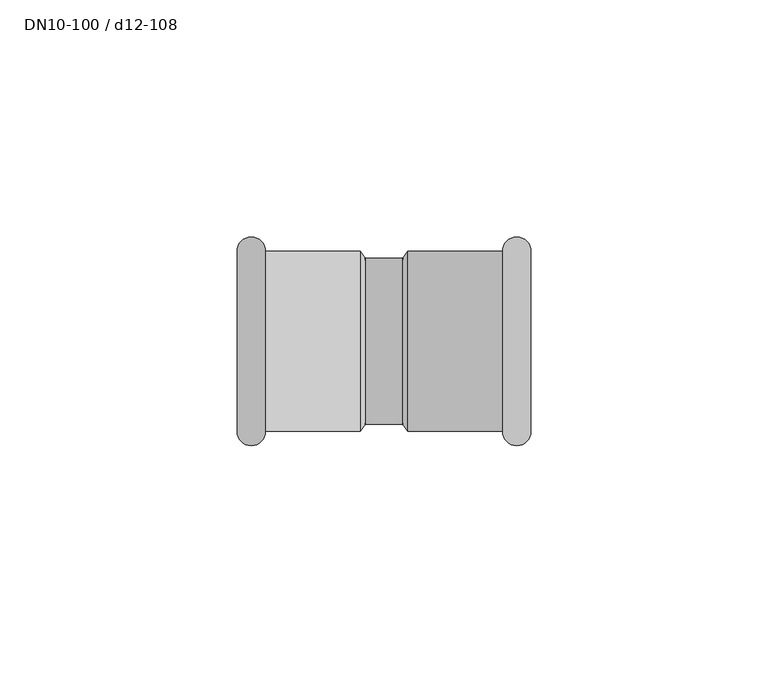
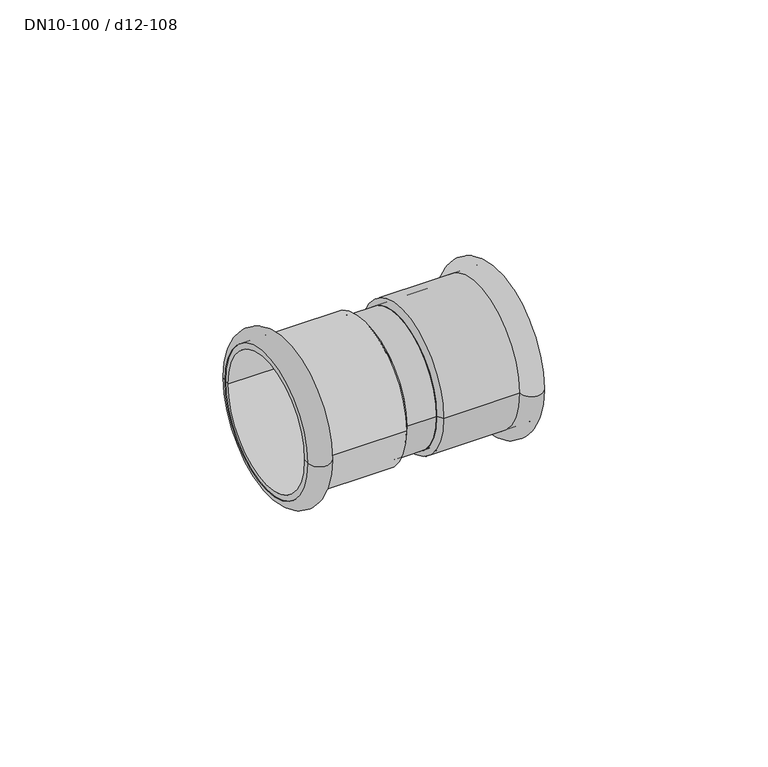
"""IFC4 building model written with IfcOpenShell, lengths in millimetres: pipe fitting geometry, NLRS_50_PIF_UN_Mapress koper sok_geb : DN10-100 / d12-108."""

import ifcopenshell
import ifcopenshell.guid

model = None  # the IFC model being written
_history = None  # IfcOwnerHistory: only IFC2X3 demands one
_inside = {}  # id of a spatial element -> (the spatial element, [elements in it])
_under = {}  # id of a project, library or spatial element -> (it, [spatial elements below it])
_declared = {}  # id of a project -> (the project, [libraries it declares])
_typed = {}  # id of a type object -> (the type object, [elements of that type])
_made_of = {}  # id of a material, layer set ... -> (it, [elements and type objects made of it])


def new_model(schema):
    """Start an empty IFC model of exactly this schema.

    Asked for "IFC4X3", IfcOpenShell would pick the latest addendum, in which some entities
    have other attributes; the version numbers below select the first issue.
    IFC2X3 requires an IfcOwnerHistory on every rooted entity: one is made here for all.
    """
    global model, _history
    if schema == "IFC4X3":
        model = ifcopenshell.file(schema_version=(4, 3, 0, 0))
    else:
        model = ifcopenshell.file(schema=schema)
    _inside.clear()
    _under.clear()
    _declared.clear()
    _typed.clear()
    _made_of.clear()
    _history = None
    if model.schema == "IFC2X3":
        org = make("IfcOrganization", Name="unknown")
        user = make(
            "IfcPersonAndOrganization",
            ThePerson=make("IfcPerson", FamilyName="unknown"),
            TheOrganization=org,
        )
        app = make(
            "IfcApplication",
            ApplicationDeveloper=org,
            Version="unknown",
            ApplicationFullName="unknown",
            ApplicationIdentifier="unknown",
        )
        _history = make(
            "IfcOwnerHistory",
            OwningUser=user,
            OwningApplication=app,
            ChangeAction="ADDED",
            CreationDate=0,
        )
    return model


def make(cls, **values):
    """One entity of the class cls with the attributes given. An attribute that is None is left unset."""
    return model.create_entity(
        cls, **{name: value for name, value in values.items() if value is not None}
    )


def rooted(cls, **values):
    """An entity with a GlobalId (a new one), such as an element, a storey or a relation."""
    return make(cls, GlobalId=ifcopenshell.guid.new(), OwnerHistory=_history, **values)


def si_unit(unit_type, name, prefix=None):
    """IfcSIUnit, for example si_unit("LENGTHUNIT", "METRE", prefix="MILLI")."""
    return make("IfcSIUnit", UnitType=unit_type, Prefix=prefix, Name=name)


def assignment(units):
    """IfcUnitAssignment: the units of a project."""
    return None if units is None else make("IfcUnitAssignment", Units=units)


def point(xyz):
    """IfcCartesianPoint."""
    return None if xyz is None else make("IfcCartesianPoint", Coordinates=xyz)


def direction(xyz):
    """IfcDirection."""
    return None if xyz is None else make("IfcDirection", DirectionRatios=xyz)


def frame(location, z_axis=None, x_axis=None):
    """IfcAxis2Placement3D, a coordinate frame: its origin and axes. An axis left out is left unset."""
    return make(
        "IfcAxis2Placement3D",
        Location=point(location),
        Axis=direction(z_axis),
        RefDirection=direction(x_axis),
    )


def frame_2d(location, x_axis=None):
    """IfcAxis2Placement2D, a coordinate frame in the plane: its origin and x axis."""
    return make(
        "IfcAxis2Placement2D", Location=point(location), RefDirection=direction(x_axis)
    )


def origin():
    """The frame at (0, 0, 0) with its axes left unset."""
    return frame((0.0, 0.0, 0.0))


def origin_2d():
    """The frame at (0, 0) in the plane with its x axis left unset."""
    return frame_2d((0.0, 0.0))


def place(relative_to, where):
    """IfcLocalPlacement: puts the frame where relative to a parent placement (None: the world)."""
    return make(
        "IfcLocalPlacement", PlacementRelTo=relative_to, RelativePlacement=where
    )


def context(
    kind, dimensions, precision=None, world=None, true_north=None, identifier=None
):
    """IfcGeometricRepresentationContext, for example the 3D "Model" context."""
    return make(
        "IfcGeometricRepresentationContext",
        ContextIdentifier=identifier,
        ContextType=kind,
        CoordinateSpaceDimension=dimensions,
        Precision=precision,
        WorldCoordinateSystem=world,
        TrueNorth=true_north,
    )


def project(units=None, contexts=None):
    """IfcProject with its units and contexts."""
    return rooted(
        "IfcProject",
        Name="project",
        RepresentationContexts=contexts,
        UnitsInContext=assignment(units),
    )


def spatial(cls, under=None, at=None, **own):
    """A site, building, storey or space (cls), placed at a placement, below another one or the project."""
    s = rooted(cls, ObjectPlacement=at, **own)
    if under is not None:
        _under.setdefault(under.id(), (under, []))[1].append(s)
    return s


def polyline(points):
    """IfcPolyline through the points."""
    return make("IfcPolyline", Points=[point(p) for p in points])


def circle_curve(where, radius):
    """IfcCircle in the frame where."""
    return make("IfcCircle", Position=where, Radius=radius)


def ellipse_curve(where, semi_axis1, semi_axis2):
    """IfcEllipse in the frame where."""
    return make(
        "IfcEllipse", Position=where, SemiAxis1=semi_axis1, SemiAxis2=semi_axis2
    )


def trimmed(basis, trim1, trim2, sense, master):
    """IfcTrimmedCurve: the piece of a basis curve between two trims."""
    return make(
        "IfcTrimmedCurve",
        BasisCurve=basis,
        Trim1=trim1,
        Trim2=trim2,
        SenseAgreement=sense,
        MasterRepresentation=master,
    )


def segment(curve, same_sense, transition):
    """IfcCompositeCurveSegment."""
    return make(
        "IfcCompositeCurveSegment",
        Transition=transition,
        SameSense=same_sense,
        ParentCurve=curve,
    )


def composite_curve(segments, self_intersect=None):
    """IfcCompositeCurve: segments joined end to end."""
    return make("IfcCompositeCurve", Segments=segments, SelfIntersect=self_intersect)


def outline(outer, holes=None, kind="AREA"):
    """IfcArbitraryClosedProfileDef: a profile drawn as a closed curve; with holes, ...WithVoids."""
    if holes is None:
        return make("IfcArbitraryClosedProfileDef", ProfileType=kind, OuterCurve=outer)
    return make(
        "IfcArbitraryProfileDefWithVoids",
        ProfileType=kind,
        OuterCurve=outer,
        InnerCurves=holes,
    )


def extrude(swept, where, along, depth):
    """IfcExtrudedAreaSolid: the profile swept, set in the frame where, extruded along a direction by depth."""
    return make(
        "IfcExtrudedAreaSolid",
        SweptArea=swept,
        Position=where,
        ExtrudedDirection=direction(along),
        Depth=depth,
    )


def shape(context_of_items, identifier, shape_type, items):
    """IfcShapeRepresentation: the items that make up one representation, for example the "Body"."""
    return make(
        "IfcShapeRepresentation",
        ContextOfItems=context_of_items,
        RepresentationIdentifier=identifier,
        RepresentationType=shape_type,
        Items=items,
    )


def source(mapping_origin, context_of_items, identifier, shape_type, items):
    """IfcRepresentationMap: a shape defined once, which mapped items show again and again."""
    return make(
        "IfcRepresentationMap",
        MappingOrigin=mapping_origin,
        MappedRepresentation=shape(context_of_items, identifier, shape_type, items),
    )


def transform(
    local_origin,
    x_axis=None,
    y_axis=None,
    z_axis=None,
    scale=None,
    scale2=None,
    scale3=None,
    uniform=True,
):
    """IfcCartesianTransformationOperator3D, or its non-uniform kind. x_axis, y_axis, z_axis: its Axis1, 2, 3."""
    if uniform:
        return make(
            "IfcCartesianTransformationOperator3D",
            Axis1=direction(x_axis),
            Axis2=direction(y_axis),
            LocalOrigin=point(local_origin),
            Scale=scale,
            Axis3=direction(z_axis),
        )
    return make(
        "IfcCartesianTransformationOperator3DnonUniform",
        Axis1=direction(x_axis),
        Axis2=direction(y_axis),
        LocalOrigin=point(local_origin),
        Scale=scale,
        Axis3=direction(z_axis),
        Scale2=scale2,
        Scale3=scale3,
    )


def mapped(mapping_source, mapping_target):
    """IfcMappedItem: shows the shape of a source again, moved by a transform."""
    return make(
        "IfcMappedItem", MappingSource=mapping_source, MappingTarget=mapping_target
    )


def made_of(thing, what):
    """Note that an element or type object is made of a material, layer set ...; save() writes the relation."""
    if what is not None:
        _made_of.setdefault(what.id(), (what, []))[1].append(thing)
    return thing


def element(
    cls,
    number,
    at=None,
    inside=None,
    cuts=None,
    type_object=None,
    material=None,
    context=None,
    identifier="Body",
    shape_type=None,
    held_by="IfcProductDefinitionShape",
    body=None,
    shapes=None,
    **own,
):
    """One element of the class cls, such as IfcWall. Its Tag is "e" and its number.

    at: its placement. inside: the storey or other place that contains it. cuts: it is an
    opening in that element (IfcRelVoidsElement). A single representation is given by context,
    identifier, shape_type and body (its items); several are given by shapes. held_by: the class
    of the entity that holds the representations. save() writes the other relations.
    """
    e = rooted(cls, Tag="e%d" % number, ObjectPlacement=at, **own)
    if body is not None:
        shapes = [shape(context, identifier, shape_type, body)]
    if shapes is not None:
        e.Representation = make(held_by, Representations=shapes)
    if inside is not None:
        _inside.setdefault(inside.id(), (inside, []))[1].append(e)
    if cuts is not None:
        rooted(
            "IfcRelVoidsElement", RelatingBuildingElement=cuts, RelatedOpeningElement=e
        )
    if type_object is not None:
        _typed.setdefault(type_object.id(), (type_object, []))[1].append(e)
    return made_of(e, material)


def aggregate(whole, parts):
    """IfcRelAggregates: a whole, such as a stair, and the parts it consists of."""
    return rooted("IfcRelAggregates", RelatingObject=whole, RelatedObjects=parts)


def save(model, path):
    """Write the relations noted so far, then the file.

    IfcRelAggregates (storeys below a building ...), IfcRelContainedInSpatialStructure (elements
    in a storey), IfcRelDefinesByType, IfcRelAssociatesMaterial and IfcRelDeclares: one each for
    every whole, place, type object, material and project.
    """
    for whole, parts in _under.values():
        aggregate(whole, parts)
    for where, things in _inside.values():
        rooted(
            "IfcRelContainedInSpatialStructure",
            RelatedElements=things,
            RelatingStructure=where,
        )
    for kind, things in _typed.values():
        rooted("IfcRelDefinesByType", RelatedObjects=things, RelatingType=kind)
    for what, things in _made_of.values():
        rooted("IfcRelAssociatesMaterial", RelatedObjects=things, RelatingMaterial=what)
    for by, libraries in _declared.values():
        rooted("IfcRelDeclares", RelatingContext=by, RelatedDefinitions=libraries)
    model.write(path)


def plane_surface(at):
    """IfcPlane: the flat surface through the origin of the frame at, square to its z axis."""
    return make("IfcPlane", Position=at)


def cylinder_surface(at, radius):
    """IfcCylindricalSurface: all points at the distance radius from the z axis of the frame at."""
    return make("IfcCylindricalSurface", Position=at, Radius=radius)


def revolved_surface(curve, axis_point, axis_direction):
    """IfcSurfaceOfRevolution: the curve turned about the line through axis_point along axis_direction."""
    return make(
        "IfcSurfaceOfRevolution",
        SweptCurve=make("IfcArbitraryOpenProfileDef", ProfileType="CURVE", Curve=curve),
        AxisPosition=make("IfcAxis1Placement", Location=point(axis_point), Axis=direction(axis_direction)),
    )


def advanced_brep(points, edges, surfaces, faces):
    """IfcAdvancedBrep: a solid bounded by faces that lie on surfaces and meet in shared edges.

    An edge is (start, end): straight between two places in points (the first is 0);
    or (start, end, curve); or (start, end, curve, False) where it runs against its curve.
    A face is (place in surfaces, loops), or (place, loops, False) where it looks against
    its surface's normal. A loop lists edges by number (the first is 1), with a minus sign
    where the edge is run from its end to its start. The first loop is the outer one.
    """
    corners = [point(p) for p in points]
    vertices = [make("IfcVertexPoint", VertexGeometry=c) for c in corners]
    made = []
    for start, end, *more in edges:
        made.append(
            make(
                "IfcEdgeCurve",
                EdgeStart=vertices[start],
                EdgeEnd=vertices[end],
                EdgeGeometry=more[0] if more else make("IfcPolyline", Points=[corners[start], corners[end]]),
                SameSense=more[1] if len(more) > 1 else True,
            )
        )
    hull = []
    for where, loops, *sense in faces:
        bounds = []
        for j, loop in enumerate(loops):
            ring = [make("IfcOrientedEdge", EdgeElement=made[abs(k) - 1], Orientation=k > 0) for k in loop]
            bounds.append(
                make(
                    "IfcFaceOuterBound" if j == 0 else "IfcFaceBound",
                    Bound=make("IfcEdgeLoop", EdgeList=ring),
                    Orientation=True,
                )
            )
        hull.append(make("IfcAdvancedFace", Bounds=bounds, FaceSurface=surfaces[where], SameSense=sense[0] if sense else True))
    return make("IfcAdvancedBrep", Outer=make("IfcClosedShell", CfsFaces=hull))


def dn10_100_d12_108_8bdaee71(model_context):
    return source(origin(), model_context, "Body", "SolidModel", [
        advanced_brep(
        [(-31.0, 19.0, 0.0), (-31.0, -19.0, 0.0), (-24.9987073, -19.0, 0.0), (-24.9987073, 19.0, 0.0)],
        [
            (0, 1, circle_curve(frame((-31.0, 0.0, 0.0), z_axis=(-1.0, 0.0, 0.0), x_axis=(0.0, -1.0, 0.0)), 19.0)),
            (1, 2),
            (2, 3, circle_curve(frame((-24.9987073, 0.0, 0.0), z_axis=(1.0, 0.0, 0.0), x_axis=(0.0, -1.0, 0.0)), 19.0)),
            (3, 0),
            (1, 0, circle_curve(frame((-31.0, 0.0, 0.0), z_axis=(-1.0, 0.0, 0.0), x_axis=(0.0, -1.0, 0.0)), 19.0)),
            (3, 2, circle_curve(frame((-24.9987073, 0.0, 0.0), z_axis=(1.0, 0.0, 0.0), x_axis=(0.0, -1.0, 0.0)), 19.0)),
            (2, 1, circle_curve(frame((-27.9993536, -19.0, 0.0), z_axis=(0.0, 0.0, -1.0), x_axis=(-1.0, 0.0, 0.0)), 3.0006464)),
            (0, 3, circle_curve(frame((-27.9993536, 19.0, 0.0), z_axis=(0.0, 0.0, -1.0), x_axis=(-1.0, 0.0, 0.0)), 3.0006464)),
        ],
        [
            revolved_surface(polyline([(-24.9987073, -19.0, 0.0), (-31.0, -19.0, 0.0)]), (-5.0, 0.0, 0.0), (1.0, 0.0, 0.0)),
            revolved_surface(trimmed(ellipse_curve(frame((-27.9993536, -19.0, 0.0), z_axis=(0.0, 0.0, 1.0), x_axis=(-1.0, 0.0, 0.0)), 3.0006464, 3.0006464), [point((-31.0, -19.0, 0.0))], [point((-24.9987073, -19.0, 0.0))], True, "CARTESIAN"), (-5.0, 0.0, 0.0), (1.0, 0.0, 0.0)),
        ],
        [
            (0, [[1, 2, 3, 4]]),
            (0, [[5, -4, 6, -2]]),
            (1, [[-3, 7, -1, 8]]),
            (1, [[-6, -8, -5, -7]]),
        ],
    ),
        advanced_brep(
        [(-31.0, 17.5, 0.0), (-31.0, -17.5, 0.0), (-4.0, -17.5, 0.0), (-4.0, 17.5, 0.0), (-31.0, 19.0, 0.0), (-31.0, -19.0, 0.0), (-5.0, 19.0, 0.0), (-5.0, -19.0, 0.0)],
        [
            (0, 1, circle_curve(frame((-31.0, 0.0, 0.0), z_axis=(-1.0, 0.0, 0.0), x_axis=(0.0, -1.0, 0.0)), 17.5)),
            (1, 2),
            (2, 3, circle_curve(frame((-4.0, 0.0, 0.0), z_axis=(1.0, 0.0, 0.0), x_axis=(0.0, -1.0, 0.0)), 17.5)),
            (3, 0),
            (1, 0, circle_curve(frame((-31.0, 0.0, 0.0), z_axis=(-1.0, 0.0, 0.0), x_axis=(0.0, -1.0, 0.0)), 17.5)),
            (3, 2, circle_curve(frame((-4.0, 0.0, 0.0), z_axis=(1.0, 0.0, 0.0), x_axis=(0.0, -1.0, 0.0)), 17.5)),
            (4, 5, circle_curve(frame((-31.0, 0.0, 0.0), z_axis=(-1.0, 0.0, 0.0), x_axis=(0.0, -1.0, 0.0)), 19.0)),
            (5, 1),
            (0, 4),
            (5, 4, circle_curve(frame((-31.0, 0.0, 0.0), z_axis=(-1.0, 0.0, 0.0), x_axis=(0.0, -1.0, 0.0)), 19.0)),
            (6, 7, circle_curve(frame((-5.0, 0.0, 0.0), z_axis=(-1.0, 0.0, 0.0), x_axis=(0.0, -1.0, 0.0)), 19.0)),
            (7, 5),
            (4, 6),
            (7, 6, circle_curve(frame((-5.0, 0.0, 0.0), z_axis=(-1.0, 0.0, 0.0), x_axis=(0.0, -1.0, 0.0)), 19.0)),
            (2, 7),
            (6, 3),
        ],
        [
            revolved_surface(polyline([(-4.0, -17.5, 0.0), (-31.0, -17.5, 0.0)]), (-5.0, 0.0, 0.0), (1.0, 0.0, 0.0)),
            plane_surface(frame((-31.0, 0.0, 0.0), z_axis=(-1.0, 0.0, 0.0), x_axis=(0.0, -1.0, 0.0))),
            cylinder_surface(frame((-5.0, 0.0, 0.0), z_axis=(1.0, 0.0, 0.0), x_axis=(0.0, -1.0, 0.0)), 19.0),
            revolved_surface(polyline([(-5.0, -19.0, 0.0), (-4.0, -17.5, 0.0)]), (-5.0, 0.0, 0.0), (1.0, 0.0, 0.0)),
        ],
        [
            (0, [[1, 2, 3, 4]]),
            (0, [[5, -4, 6, -2]]),
            (1, [[7, 8, -1, 9]]),
            (1, [[10, -9, -5, -8]]),
            (2, [[11, 12, -7, 13]]),
            (2, [[14, -13, -10, -12]]),
            (3, [[-3, 15, -11, 16]]),
            (3, [[-6, -16, -14, -15]]),
        ],
    ),
        advanced_brep(
        [(31.0, -19.0, 0.0), (31.0, 19.0, 0.0), (24.9987073, 19.0, 0.0), (24.9987073, -19.0, 0.0)],
        [
            (0, 1, circle_curve(frame((31.0, 0.0, 0.0), z_axis=(1.0, 0.0, 0.0), x_axis=(0.0, 1.0, 0.0)), 19.0)),
            (1, 2),
            (2, 3, circle_curve(frame((24.9987073, 0.0, 0.0), z_axis=(-1.0, 0.0, 0.0), x_axis=(0.0, 1.0, 0.0)), 19.0)),
            (3, 0),
            (1, 0, circle_curve(frame((31.0, 0.0, 0.0), z_axis=(1.0, 0.0, 0.0), x_axis=(0.0, 1.0, 0.0)), 19.0)),
            (3, 2, circle_curve(frame((24.9987073, 0.0, 0.0), z_axis=(-1.0, 0.0, 0.0), x_axis=(0.0, 1.0, 0.0)), 19.0)),
            (2, 1, circle_curve(frame((27.9993536, 19.0, 0.0), z_axis=(0.0, 0.0, -1.0), x_axis=(1.0, 0.0, 0.0)), 3.0006464)),
            (0, 3, circle_curve(frame((27.9993536, -19.0, 0.0), z_axis=(0.0, 0.0, -1.0), x_axis=(1.0, 0.0, 0.0)), 3.0006464)),
        ],
        [
            revolved_surface(polyline([(24.9987073, 19.0, 0.0), (31.0, 19.0, 0.0)]), (5.0, 0.0, 0.0), (-1.0, 0.0, 0.0)),
            revolved_surface(trimmed(ellipse_curve(frame((27.9993536, 19.0, 0.0), z_axis=(0.0, 0.0, 1.0), x_axis=(1.0, 0.0, 0.0)), 3.0006464, 3.0006464), [point((31.0, 19.0, 0.0))], [point((24.9987073, 19.0, 0.0))], True, "CARTESIAN"), (5.0, 0.0, 0.0), (-1.0, 0.0, 0.0)),
        ],
        [
            (0, [[1, 2, 3, 4]]),
            (0, [[5, -4, 6, -2]]),
            (1, [[-3, 7, -1, 8]]),
            (1, [[-6, -8, -5, -7]]),
        ],
    ),
        advanced_brep(
        [(31.0, -17.5, 0.0), (31.0, 17.5, 0.0), (4.0, 17.5, 0.0), (4.0, -17.5, 0.0), (31.0, -19.0, 0.0), (31.0, 19.0, 0.0), (5.0, -19.0, 0.0), (5.0, 19.0, 0.0)],
        [
            (0, 1, circle_curve(frame((31.0, 0.0, 0.0), z_axis=(1.0, 0.0, 0.0), x_axis=(0.0, 1.0, 0.0)), 17.5)),
            (1, 2),
            (2, 3, circle_curve(frame((4.0, 0.0, 0.0), z_axis=(-1.0, 0.0, 0.0), x_axis=(0.0, 1.0, 0.0)), 17.5)),
            (3, 0),
            (1, 0, circle_curve(frame((31.0, 0.0, 0.0), z_axis=(1.0, 0.0, 0.0), x_axis=(0.0, 1.0, 0.0)), 17.5)),
            (3, 2, circle_curve(frame((4.0, 0.0, 0.0), z_axis=(-1.0, 0.0, 0.0), x_axis=(0.0, 1.0, 0.0)), 17.5)),
            (4, 5, circle_curve(frame((31.0, 0.0, 0.0), z_axis=(1.0, 0.0, 0.0), x_axis=(0.0, 1.0, 0.0)), 19.0)),
            (5, 1),
            (0, 4),
            (5, 4, circle_curve(frame((31.0, 0.0, 0.0), z_axis=(1.0, 0.0, 0.0), x_axis=(0.0, 1.0, 0.0)), 19.0)),
            (6, 7, circle_curve(frame((5.0, 0.0, 0.0), z_axis=(1.0, 0.0, 0.0), x_axis=(0.0, 1.0, 0.0)), 19.0)),
            (7, 5),
            (4, 6),
            (7, 6, circle_curve(frame((5.0, 0.0, 0.0), z_axis=(1.0, 0.0, 0.0), x_axis=(0.0, 1.0, 0.0)), 19.0)),
            (2, 7),
            (6, 3),
        ],
        [
            revolved_surface(polyline([(4.0, 17.5, 0.0), (31.0, 17.5, 0.0)]), (5.0, 0.0, 0.0), (-1.0, 0.0, 0.0)),
            plane_surface(frame((31.0, 0.0, 0.0), z_axis=(1.0, 0.0, 0.0), x_axis=(0.0, 1.0, 0.0))),
            cylinder_surface(frame((5.0, 0.0, 0.0), z_axis=(-1.0, 0.0, 0.0), x_axis=(0.0, 1.0, 0.0)), 19.0),
            revolved_surface(polyline([(5.0, 19.0, 0.0), (4.0, 17.5, 0.0)]), (5.0, 0.0, 0.0), (-1.0, 0.0, 0.0)),
        ],
        [
            (0, [[1, 2, 3, 4]]),
            (0, [[5, -4, 6, -2]]),
            (1, [[7, 8, -1, 9]]),
            (1, [[10, -9, -5, -8]]),
            (2, [[11, 12, -7, 13]]),
            (2, [[14, -13, -10, -12]]),
            (3, [[-3, 15, -11, 16]]),
            (3, [[-6, -16, -14, -15]]),
        ],
    ),
        advanced_brep(
        [(-5.0, -17.5, 0.0), (-5.0, 17.5, 0.0), (-4.0, 17.5, 0.0), (-4.0, -17.5, 0.0), (-5.0, 0.0, 0.0), (-4.0, 0.0, 0.0)],
        [
            (0, 1, circle_curve(frame((-5.0, 0.0, 0.0), z_axis=(1.0, 0.0, 0.0), x_axis=(0.0, 1.0, 0.0)), 17.5)),
            (1, 2),
            (2, 3, circle_curve(frame((-4.0, 0.0, 0.0), z_axis=(-1.0, 0.0, 0.0), x_axis=(0.0, 1.0, 0.0)), 17.5)),
            (3, 0),
            (1, 0, circle_curve(frame((-5.0, 0.0, 0.0), z_axis=(1.0, 0.0, 0.0), x_axis=(0.0, 1.0, 0.0)), 17.5)),
            (3, 2, circle_curve(frame((-4.0, 0.0, 0.0), z_axis=(-1.0, 0.0, 0.0), x_axis=(0.0, 1.0, 0.0)), 17.5)),
            (4, 1),
            (0, 4),
            (2, 5),
            (5, 3),
        ],
        [
            cylinder_surface(frame((1967.5, 0.0, 0.0), z_axis=(-1.0, 0.0, 0.0), x_axis=(0.0, 1.0, 0.0)), 17.5),
            plane_surface(frame((-5.0, 0.0, 0.0), z_axis=(-1.0, 0.0, 0.0), x_axis=(0.0, 1.0, 0.0))),
            plane_surface(frame((-4.0, 0.0, 0.0), z_axis=(1.0, 0.0, 0.0), x_axis=(0.0, 1.0, 0.0))),
        ],
        [
            (0, [[1, 2, 3, 4]]),
            (0, [[5, -4, 6, -2]]),
            (1, [[7, -1, 8]]),
            (1, [[-8, -5, -7]]),
            (2, [[-3, 9, 10]]),
            (2, [[-6, -10, -9]]),
        ],
    ),
        advanced_brep(
        [(4.0, 0.0, 0.0), (4.0, 17.5, 0.0), (4.0, -17.5, 0.0), (5.0, -17.5, 0.0), (5.0, 17.5, 0.0), (5.0, 0.0, 0.0)],
        [
            (0, 1),
            (1, 2, circle_curve(frame((4.0, 0.0, 0.0), z_axis=(-1.0, 0.0, 0.0), x_axis=(0.0, 1.0, 0.0)), 17.5)),
            (2, 0),
            (2, 1, circle_curve(frame((4.0, 0.0, 0.0), z_axis=(-1.0, 0.0, 0.0), x_axis=(0.0, 1.0, 0.0)), 17.5)),
            (3, 4, circle_curve(frame((5.0, 0.0, 0.0), z_axis=(1.0, 0.0, 0.0), x_axis=(0.0, 1.0, 0.0)), 17.5)),
            (4, 5),
            (5, 3),
            (4, 3, circle_curve(frame((5.0, 0.0, 0.0), z_axis=(1.0, 0.0, 0.0), x_axis=(0.0, 1.0, 0.0)), 17.5)),
            (1, 4),
            (3, 2),
        ],
        [
            plane_surface(frame((4.0, 0.0, 0.0), z_axis=(-1.0, 0.0, 0.0), x_axis=(0.0, 1.0, 0.0))),
            plane_surface(frame((5.0, 0.0, 0.0), z_axis=(1.0, 0.0, 0.0), x_axis=(0.0, 1.0, 0.0))),
            cylinder_surface(frame((1967.5, 0.0, 0.0), z_axis=(-1.0, 0.0, 0.0), x_axis=(0.0, 1.0, 0.0)), 17.5),
        ],
        [
            (0, [[1, 2, 3]]),
            (0, [[-3, 4, -1]]),
            (1, [[5, 6, 7]]),
            (1, [[8, -7, -6]]),
            (2, [[-2, 9, -5, 10]]),
            (2, [[-4, -10, -8, -9]]),
        ],
    ),
        extrude(outline(composite_curve([segment(trimmed(circle_curve(origin_2d(), 17.5), [point((-17.5, 0.0))], [point((17.5, 0.0))], False, "CARTESIAN"), True, "CONTINUOUS"), segment(trimmed(circle_curve(origin_2d(), 17.5), [point((17.5, 0.0))], [point((-17.5, 0.0))], False, "CARTESIAN"), True, "CONTINUOUS")], self_intersect=False)), frame((-5.0, 0.0, 0.0), z_axis=(1.0, 0.0, 0.0), x_axis=(0.0, 1.0, 0.0)), (0.0, 0.0, 1.0), 10.0),
    ])


if __name__ == "__main__":
    model = new_model("IFC4")
    model_context = context("Model", 3, world=origin())
    ifc_project = project(units=[si_unit("LENGTHUNIT", "METRE", prefix="MILLI")], contexts=[model_context])
    site = spatial("IfcSite", under=ifc_project)
    building = spatial("IfcBuilding", under=site)
    placement = place(None, origin())
    dn10_100_d12_108_shape = dn10_100_d12_108_8bdaee71(model_context)
    element("IfcPipeFitting", 1, ObjectType="NLRS_50_PIF_UN_Mapress koper sok_geb : DN10-100 / d12-108", at=placement, inside=building, context=model_context, shape_type="MappedRepresentation", body=[
        mapped(dn10_100_d12_108_shape, transform((0.0, 0.0, 0.0), x_axis=(1.0, 0.0, 0.0), y_axis=(0.0, 1.0, 0.0), z_axis=(0.0, 0.0, 1.0))),
    ])
    save(model, "model.ifc")
